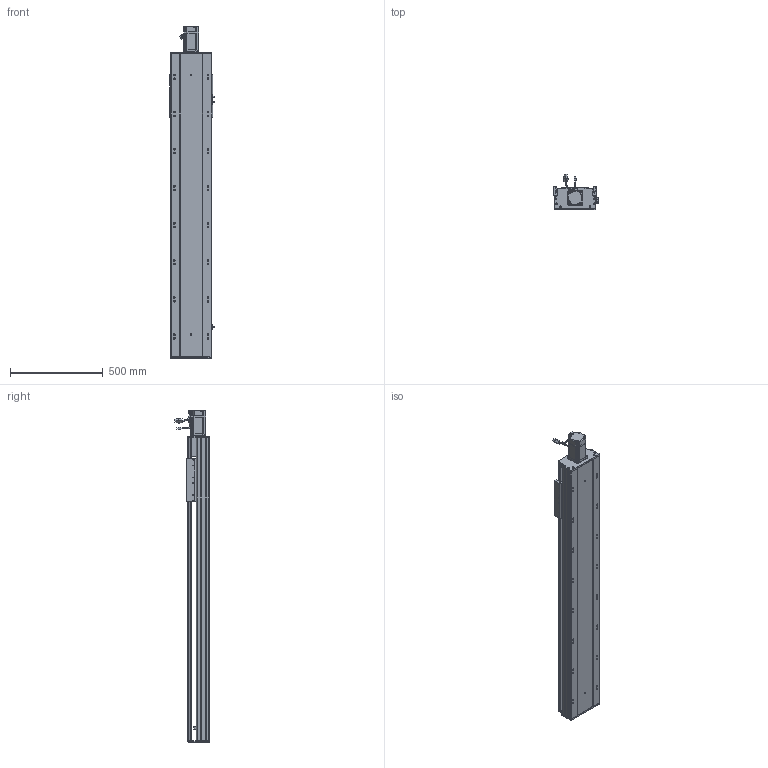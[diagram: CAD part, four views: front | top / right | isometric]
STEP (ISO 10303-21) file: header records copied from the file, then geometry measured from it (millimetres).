
FILE_DESCRIPTION (( 'STEP AP203' ), '1' );
FILE_NAME ('RY220-L2525-800-MK-邧嶺.SLDASM_1200.step', '2022-08-06T08:57:40', ( '' ), ( '' ), 'SwSTEP 2.0', 'SolidWorks 2016', '' );
FILE_SCHEMA (( 'CONFIG_CONTROL_DESIGN' ));
Length unit declared in the file: millimetre
Products named in the file (12): RY220-L2525-800-MK-邧嶺.SLDASM_1200; RY220-800-奻裔啣-MK_1200; RY220-俋离672覜茼んえ; RY220菁釱MK-800-邧嶺_1200; 怢湛750W_ECMA-CX0807ES; RY220ヶ裔啣; RY220电机支撑座FK20（PCD90M6）; RY220綴裔啣; 滅袉蝶18-15; 覜茼ん672; 滅袉蝶18-12; RY220半封闭25-32螺母铝滑块
Assembly tree (15 placements, depth 2):
  RY220-L2525-800-MK-邧嶺.SLDASM_1200
    RY220菁釱MK-800-邧嶺_1200
    RY220电机支撑座FK20（PCD90M6）
    怢湛750W_ECMA-CX0807ES
    滅袉蝶18-12  x2
    RY220ヶ裔啣
    RY220綴裔啣
    覜茼ん672  x3
    RY220半封闭25-32螺母铝滑块
    RY220-800-奻裔啣-MK_1200
    RY220-俋离672覜茼んえ
    滅袉蝶18-15  x2
Bounding box: 238.7 x 187.27 x 1790.3 mm (x, y, z)
Volume: 13845457.7 mm3; surface area: 3917130.4 mm2
Topology: 16 solids, 16 shells, 2272 faces, 6298 edges, 3968 vertices
Faces by surface type: cylinder 1030, plane 915, cone 265, bspline 36, sphere 16, torus 10
Entity records: 74664 total; most frequent: CARTESIAN_POINT 21149, ORIENTED_EDGE 11104, DIRECTION 10531, EDGE_CURVE 5552, AXIS2_PLACEMENT_3D 3713, VERTEX_POINT 3624, VECTOR 3105, LINE 3105
